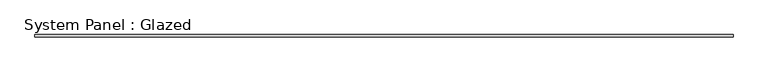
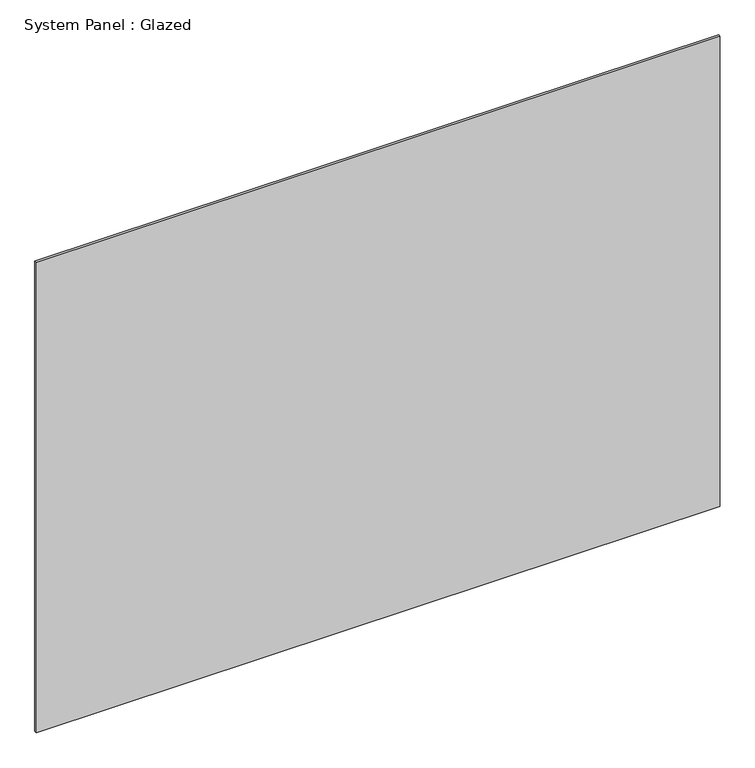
"""IFC4 building model written with IfcOpenShell, lengths in millimetres: plate geometry, System Panel : Glazed."""

from ifc_helpers import new_model, si_unit, origin, origin_with_axes, place, context, project, spatial, polyline, outline, extrude, source, transform, mapped, element, save


def system_panel_glazed_5122fece(model_context):
    return source(origin(), model_context, "Body", "SweptSolid", [
        extrude(outline(polyline([(1445.0, 0.0), (-1445.0, 0.0), (-1445.0, 10.0), (1445.0, 10.0), (1445.0, 0.0)])), origin_with_axes(), (0.0, 0.0, 1.0), 2100.0),
    ])


if __name__ == "__main__":
    model = new_model("IFC4")
    model_context = context("Model", 3, world=origin())
    ifc_project = project(units=[si_unit("LENGTHUNIT", "METRE", prefix="MILLI")], contexts=[model_context])
    site = spatial("IfcSite", under=ifc_project)
    building = spatial("IfcBuilding", under=site)
    placement = place(None, origin())
    system_panel_glazed_shape = system_panel_glazed_5122fece(model_context)
    element("IfcPlate", 1, ObjectType="System Panel : Glazed", at=placement, inside=building, context=model_context, shape_type="MappedRepresentation", body=[
        mapped(system_panel_glazed_shape, transform((0.0, 0.0, 0.0), x_axis=(1.0, 0.0, 0.0), y_axis=(0.0, 1.0, 0.0), z_axis=(0.0, 0.0, 1.0))),
    ])
    save(model, "model.ifc")
